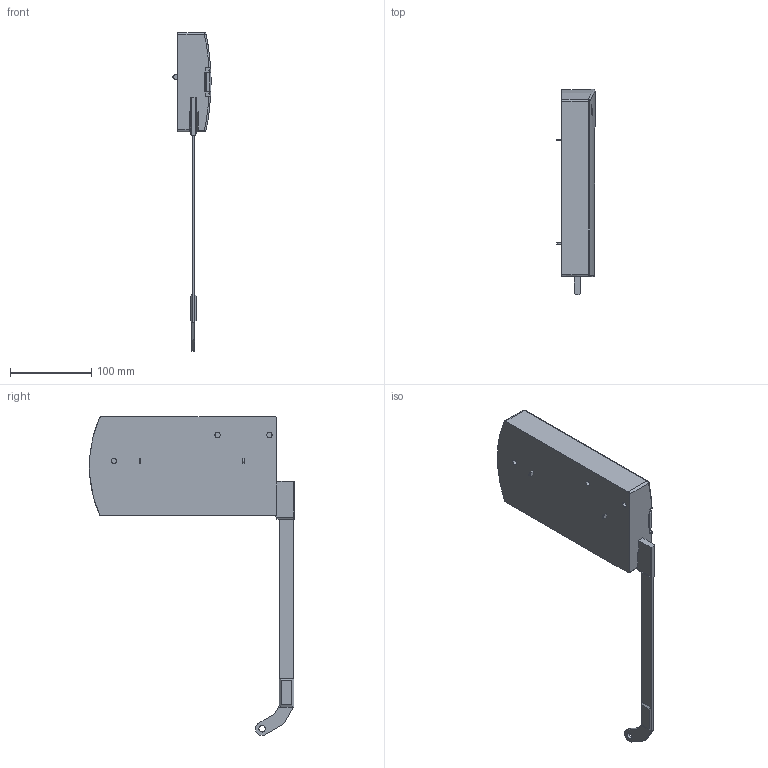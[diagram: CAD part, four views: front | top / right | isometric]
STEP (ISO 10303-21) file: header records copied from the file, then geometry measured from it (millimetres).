
FILE_DESCRIPTION (( 'STEP AP203' ), '1' );
FILE_NAME ('Kinvaro_F-20_Typ4_links_D2876017125~a.step', '2012-05-04T06:24:04', ( 'admin' ), ( 'Hewlett-Packard Company' ), 'SwSTEP 2.0', 'SolidWorks 2011', '' );
FILE_SCHEMA (( 'CONFIG_CONTROL_DESIGN' ));
Length unit declared in the file: millimetre
Products named in the file (1): Kinvaro_F-20_Typ4_links_D2876017125~a
Bounding box: 46.99 x 253.05 x 393.5 mm (x, y, z)
Volume: 1091244.1 mm3; surface area: 97342.8 mm2
Topology: 1 solids, 1 shells, 410 faces, 1130 edges, 741 vertices
Faces by surface type: cylinder 180, plane 172, bspline 46, torus 8, sphere 4
Entity records: 14396 total; most frequent: CARTESIAN_POINT 3991, ORIENTED_EDGE 2254, DIRECTION 2058, EDGE_CURVE 1127, VERTEX_POINT 741, AXIS2_PLACEMENT_3D 724, LINE 610, VECTOR 610
